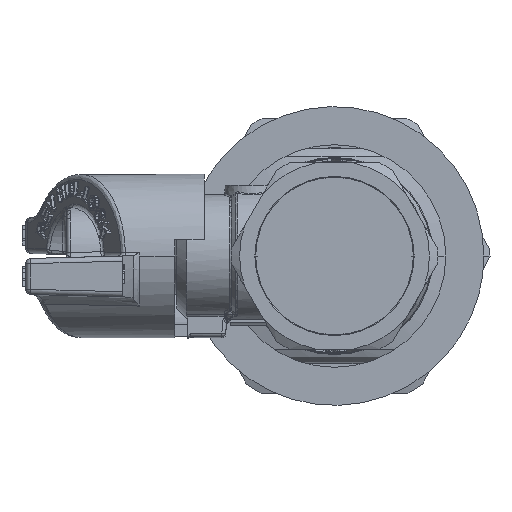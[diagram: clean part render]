
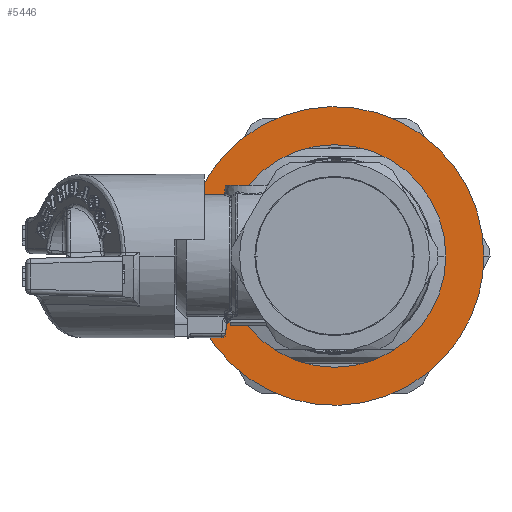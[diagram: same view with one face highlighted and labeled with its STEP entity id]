
A CAD part, left-side view. The second image highlights one B-rep face of the part: STEP entity #5446.
In plain terms, the highlighted planar face has unit normal (1, 0, 0).
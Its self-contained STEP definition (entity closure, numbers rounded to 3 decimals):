
#5327=CARTESIAN_POINT('',(18.9,0.,0.));
#5328=DIRECTION('',(1.,0.,0.));
#5329=DIRECTION('',(0.,1.,0.));
#5330=AXIS2_PLACEMENT_3D('',#5327,#5328,#5329);
#5332=CARTESIAN_POINT('',(18.9,0.,0.));
#5333=DIRECTION('',(1.,0.,0.));
#5334=DIRECTION('',(0.,-1.,0.));
#5335=AXIS2_PLACEMENT_3D('',#5332,#5333,#5334);
#5337=CARTESIAN_POINT('',(18.9,-20.077,0.));
#5338=CARTESIAN_POINT('',(18.9,-20.077,0.92));
#5339=CARTESIAN_POINT('',(18.9,-19.952,2.74));
#5340=CARTESIAN_POINT('',(18.9,-19.393,5.434));
#5341=CARTESIAN_POINT('',(18.9,-18.472,8.024));
#5342=CARTESIAN_POINT('',(18.9,-17.208,10.464));
#5343=CARTESIAN_POINT('',(18.9,-15.623,12.71));
#5344=CARTESIAN_POINT('',(18.9,-13.746,14.719));
#5345=CARTESIAN_POINT('',(18.9,-11.614,16.454));
#5346=CARTESIAN_POINT('',(18.9,-9.266,17.882));
#5347=CARTESIAN_POINT('',(18.9,-6.744,18.977));
#5348=CARTESIAN_POINT('',(18.9,-4.098,19.719));
#5349=CARTESIAN_POINT('',(18.9,-1.374,20.093));
#5350=CARTESIAN_POINT('',(18.9,1.374,20.093));
#5351=CARTESIAN_POINT('',(18.9,4.098,19.719));
#5352=CARTESIAN_POINT('',(18.9,6.744,18.977));
#5353=CARTESIAN_POINT('',(18.9,9.266,17.882));
#5354=CARTESIAN_POINT('',(18.9,11.614,16.454));
#5355=CARTESIAN_POINT('',(18.9,13.746,14.719));
#5356=CARTESIAN_POINT('',(18.9,15.623,12.71));
#5357=CARTESIAN_POINT('',(18.9,17.208,10.464));
#5358=CARTESIAN_POINT('',(18.9,18.472,8.024));
#5359=CARTESIAN_POINT('',(18.9,19.393,5.434));
#5360=CARTESIAN_POINT('',(18.9,19.952,2.74));
#5361=CARTESIAN_POINT('',(18.9,20.077,0.92));
#5362=CARTESIAN_POINT('',(18.9,20.077,0.));
#5364=CARTESIAN_POINT('',(18.9,20.077,0.));
#5365=CARTESIAN_POINT('',(18.9,20.077,-0.92));
#5366=CARTESIAN_POINT('',(18.9,19.952,-2.74));
#5367=CARTESIAN_POINT('',(18.9,19.393,-5.434));
#5368=CARTESIAN_POINT('',(18.9,18.472,-8.024));
#5369=CARTESIAN_POINT('',(18.9,17.208,-10.464));
#5370=CARTESIAN_POINT('',(18.9,15.623,-12.71));
#5371=CARTESIAN_POINT('',(18.9,13.746,-14.719));
#5372=CARTESIAN_POINT('',(18.9,11.614,-16.454));
#5373=CARTESIAN_POINT('',(18.9,9.266,-17.882));
#5374=CARTESIAN_POINT('',(18.9,6.744,-18.977));
#5375=CARTESIAN_POINT('',(18.9,4.098,-19.719));
#5376=CARTESIAN_POINT('',(18.9,1.374,-20.093));
#5377=CARTESIAN_POINT('',(18.9,-1.374,-20.093));
#5378=CARTESIAN_POINT('',(18.9,-4.098,-19.719));
#5379=CARTESIAN_POINT('',(18.9,-6.744,-18.977));
#5380=CARTESIAN_POINT('',(18.9,-9.266,-17.882));
#5381=CARTESIAN_POINT('',(18.9,-11.614,-16.454));
#5382=CARTESIAN_POINT('',(18.9,-13.746,-14.719));
#5383=CARTESIAN_POINT('',(18.9,-15.623,-12.71));
#5384=CARTESIAN_POINT('',(18.9,-17.208,-10.464));
#5385=CARTESIAN_POINT('',(18.9,-18.472,-8.024));
#5386=CARTESIAN_POINT('',(18.9,-19.393,-5.434));
#5387=CARTESIAN_POINT('',(18.9,-19.952,-2.74));
#5388=CARTESIAN_POINT('',(18.9,-20.077,-0.92));
#5389=CARTESIAN_POINT('',(18.9,-20.077,0.));
#5395=CARTESIAN_POINT('',(18.9,14.963,0.));
#5396=CARTESIAN_POINT('',(18.9,-14.963,0.));
#5397=VERTEX_POINT('',#5395);
#5398=VERTEX_POINT('',#5396);
#5399=VERTEX_POINT('',#5362);
#5400=VERTEX_POINT('',#5337);
#5431=CARTESIAN_POINT('',(18.9,0.,0.));
#5432=DIRECTION('',(1.,0.,0.));
#5433=DIRECTION('',(0.,1.,0.));
#5434=AXIS2_PLACEMENT_3D('',#5431,#5432,#5433);
#5435=PLANE('',#5434);
#5437=ORIENTED_EDGE('',*,*,#5436,.T.);
#5439=ORIENTED_EDGE('',*,*,#5438,.T.);
#5440=EDGE_LOOP('',(#5437,#5439));
#5441=FACE_OUTER_BOUND('',#5440,.F.);
#5442=ORIENTED_EDGE('',*,*,#5425,.T.);
#5443=ORIENTED_EDGE('',*,*,#5410,.T.);
#5444=EDGE_LOOP('',(#5442,#5443));
#5445=FACE_BOUND('',#5444,.F.);
#5446=ADVANCED_FACE('',(#5441,#5445),#5435,.T.);
#5331=CIRCLE('',#5330,14.963);
#5336=CIRCLE('',#5335,14.963);
#5363=B_SPLINE_CURVE_WITH_KNOTS('',3,(#5337,#5338,#5339,#5340,#5341,#5342,#5343,
#5344,#5345,#5346,#5347,#5348,#5349,#5350,#5351,#5352,#5353,#5354,#5355,#5356,
#5357,#5358,#5359,#5360,#5361,#5362),.UNSPECIFIED.,.F.,.F.,(4,1,1,1,1,1,1,1,1,1,
1,1,1,1,1,1,1,1,1,1,1,1,1,4),(0.,0.043,0.087,
0.13,0.174,0.217,0.261,
0.304,0.348,0.391,0.435,
0.478,0.522,0.565,0.609,
0.652,0.696,0.739,0.783,
0.826,0.87,0.913,0.957,1.),
.UNSPECIFIED.);
#5390=B_SPLINE_CURVE_WITH_KNOTS('',3,(#5364,#5365,#5366,#5367,#5368,#5369,#5370,
#5371,#5372,#5373,#5374,#5375,#5376,#5377,#5378,#5379,#5380,#5381,#5382,#5383,
#5384,#5385,#5386,#5387,#5388,#5389),.UNSPECIFIED.,.F.,.F.,(4,1,1,1,1,1,1,1,1,1,
1,1,1,1,1,1,1,1,1,1,1,1,1,4),(0.,0.043,0.087,
0.13,0.174,0.217,0.261,
0.304,0.348,0.391,0.435,
0.478,0.522,0.565,0.609,
0.652,0.696,0.739,0.783,
0.826,0.87,0.913,0.957,1.),
.UNSPECIFIED.);
#5410=EDGE_CURVE('',#5398,#5397,#5336,.T.);
#5425=EDGE_CURVE('',#5397,#5398,#5331,.T.);
#5436=EDGE_CURVE('',#5400,#5399,#5363,.T.);
#5438=EDGE_CURVE('',#5399,#5400,#5390,.T.);
